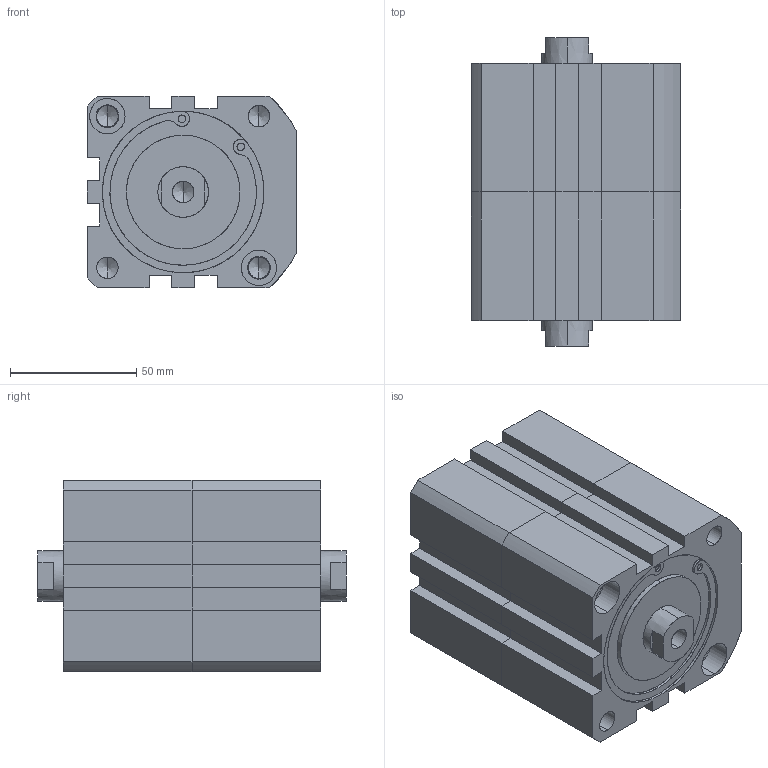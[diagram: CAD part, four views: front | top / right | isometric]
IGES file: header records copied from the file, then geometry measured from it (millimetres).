
Start section: SolidWorks IGES file using analytic representation for surfaces
Global section: file name: C:\Users\Toshiba\Desktop\XCD7-63-10-10(L).IGS; native system: SolidWorks 2014; preprocessor: SolidWorks 2014; author: Toshiba; date: 160805.094034; units: millimetre
Bounding box: 83 x 122 x 76 mm (x, y, z)
Surface area: 78009.8 mm2 (no closed solid volume)
Topology: 0 solids, 0 shells, 224 faces, 3742 edges, 3714 vertices
Faces by surface type: revolution 132, bspline 92
